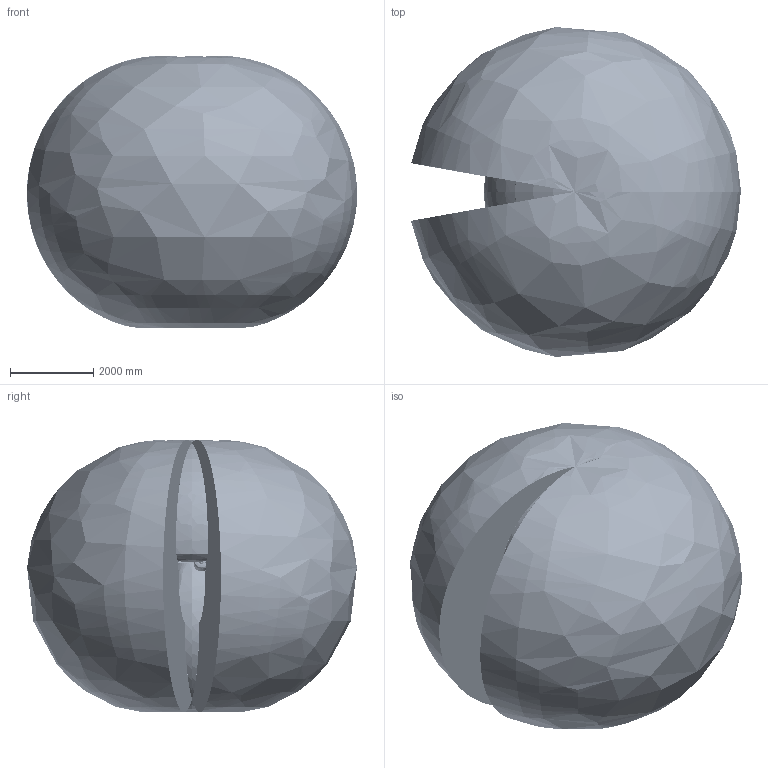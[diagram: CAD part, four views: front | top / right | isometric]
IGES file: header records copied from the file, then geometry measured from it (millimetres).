
Start section: SolidWorks IGES file using analytic representation for surfaces
Global section: file name: N:\DM\Robotics\SEROP_PROJ\Product Development\DevelopmentProjects\Manipulator_Modularity\04. Product Design\06. CAD\Amanda\6730S Simulation models\IRB6730S_150kg-400_OC_01_IGES_J\IRB6730S_150kg-400_OC_00_ASM_CAD.igs; native system: SolidWorks 2024; preprocessor: SolidWorks 2024; author: SEJOHLUN; date: 251219.140004; units: millimetre
Bounding box: 7942.26 x 7933.39 x 6550.95 mm (x, y, z)
Surface area: 272109351.3 mm2 (no closed solid volume)
Topology: 0 solids, 0 shells, 8102 faces, 133566 edges, 133304 vertices
Faces by surface type: bspline 4510, revolution 3592
